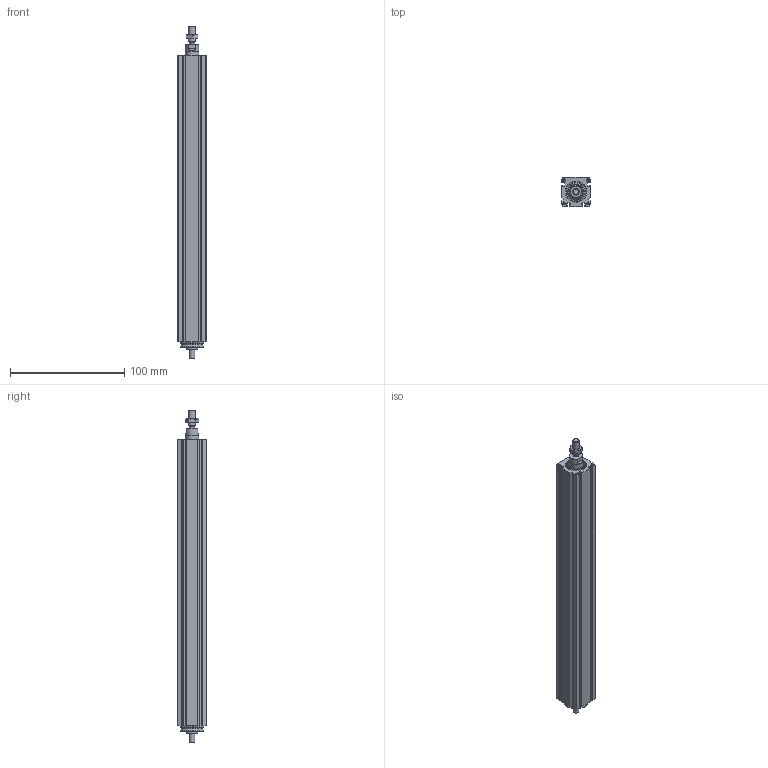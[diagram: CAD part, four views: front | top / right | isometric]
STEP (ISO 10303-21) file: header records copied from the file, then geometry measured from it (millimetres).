
FILE_DESCRIPTION(/* description */ ('STEP AP214'),/* implementation_level */ '2;1');
FILE_NAME(/* name */ 'MCE 25 0606 200 0(0)',/* time_stamp */ '2023-10-05T13:35:24+02:00',/* author */ ('License CC BY-ND 4.0'),/* organization */ ('CADENAS'),/* preprocessor_version */ 'ST-DEVELOPER v19.3',/* originating_system */ 'PARTsolutions',/* authorisation */ ' ');
FILE_SCHEMA (('AUTOMOTIVE_DESIGN {1 0 10303 214 3 1 1}'));
Length unit declared in the file: millimetre
Products named in the file (4): MCE 25 0606 200  0(0); 25_nut; 25(2000)_rod; 25(200)_msc
Assembly tree (3 placements, depth 2):
  MCE 25 0606 200  0(0)
    25_nut
    25(2000)_rod
    25(200)_msc
Bounding box: 25 x 25 x 290 mm (x, y, z)
Volume: 112718.1 mm3; surface area: 61882.8 mm2
Topology: 3 solids, 3 shells, 245 faces, 623 edges, 406 vertices
Faces by surface type: plane 110, cylinder 108, cone 23, torus 4
Full cylindrical faces by diameter (mm): 2.013 x8, 4.8 x1, 4.917 x1, 5 x1, 6 x1, 8 x1, 10 x1, 11.8 x1, 12 x2, 14.7 x1, 15.4 x1, 18 x1, 19 x2, 20 x2
Entity records: 7373 total; most frequent: CARTESIAN_POINT 1327, DIRECTION 1300, ORIENTED_EDGE 1164, EDGE_CURVE 582, AXIS2_PLACEMENT_3D 495, VERTEX_POINT 404, LINE 310, VECTOR 310
